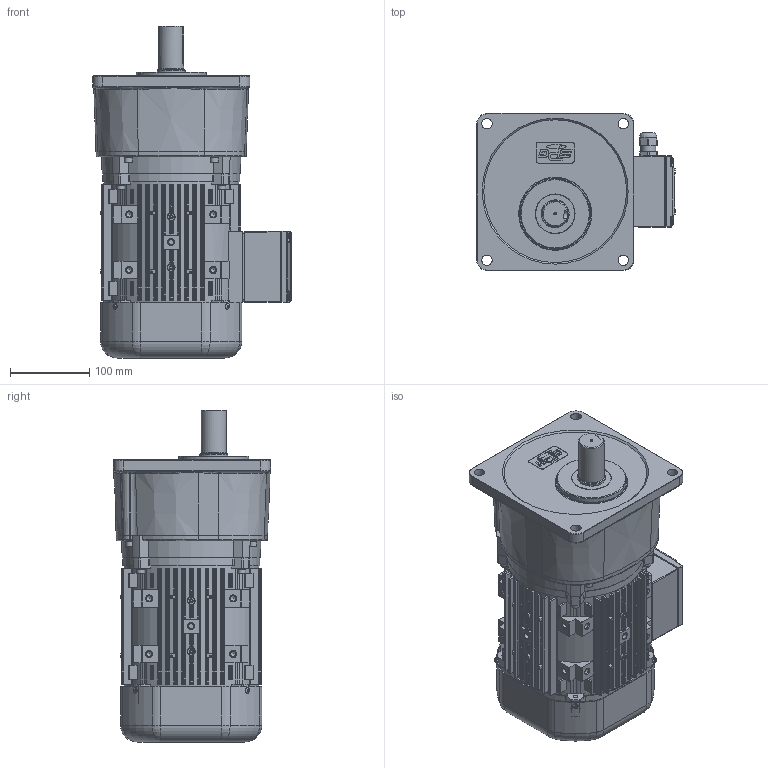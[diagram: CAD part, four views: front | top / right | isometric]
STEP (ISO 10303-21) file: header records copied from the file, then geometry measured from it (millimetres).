
FILE_DESCRIPTION((''),'2;1');
FILE_NAME('D:\Heo\도면\1동력도면\3D도면\PAK 1.5kW\PAK32-30~25-EA(B)150.stp','2013-04-02T14:29:35',('jhheo'),(''),'Autodesk Inventor 2013','Autodesk Inventor 2013','');
FILE_SCHEMA(('AUTOMOTIVE_DESIGN { 1 0 10303 214 1 1 1 1 }'));
Length unit declared in the file: millimetre
Products named in the file (20): PAK32-30~25-EA(B)150; 90L 1.5kW FRAME L_T 20091120; FAN COVER 20090528; 90L 1.5kW FRONT COVER L_T 20090618; 554260252-M6-L25; 552400800-M4XL8; RUBBER GASKET FOR ASM; Lead box EA(B) ASS'Y; LEAD BOX A 20090609; LEAD BOX B 20090609; 0570004400_SKINTOP PG11; 0570004400_BED; 0570004400_CAP; 0570004400_Rubber; PAK32 150; 32F+1.5kW HOUSING 상 가공; 0393087300_32F_PAK-BOX 가공 Sample; JIS B 2402 D D 35 x 50 x 8; 32F-SPINDLE; 0554260256-M6-L25
Assembly tree (36 placements, depth 3):
  PAK32-30~25-EA(B)150
    90L 1.5kW FRAME L_T 20091120
    FAN COVER 20090528
    90L 1.5kW FRONT COVER L_T 20090618
    554260252-M6-L25  x8
    552400800-M4XL8  x4
    RUBBER GASKET FOR ASM
    PAK32 150
      32F+1.5kW HOUSING 상 가공
      0393087300_32F_PAK-BOX 가공 Sample
      JIS B 2402 D D 35 x 50 x 8
      32F-SPINDLE
      0554260256-M6-L25  x4
  Lead box EA(B) ASS'Y
    LEAD BOX A 20090609
    LEAD BOX B 20090609
    RUBBER GASKET FOR ASM
    552400800-M4XL8  x4
    0570004400_SKINTOP PG11
      0570004400_BED
      0570004400_CAP
      0570004400_Rubber
Bounding box: 250.5 x 198 x 418.5 mm (x, y, z)
Volume: 3021278.2 mm3; surface area: 892132.6 mm2
Topology: 34 solids, 34 shells, 2455 faces, 6485 edges, 4219 vertices
Faces by surface type: plane 1158, cylinder 971, cone 186, torus 81, bspline 39, sphere 20
Full cylindrical faces by diameter (mm): 2 x2, 3.2 x10, 3.242 x14, 3.6 x4, 4 x8, 4.917 x12, 5 x16, 6 x13, 6.5 x4, 6.647 x15, 7 x12, 9.5 x12, 10 x12, 10.2 x1, 10.7 x1, 13.1 x1, 13.4 x2, 18.4 x1, 18.6 x1, 18.8 x1, 21 x1, 21.8 x1, 22 x1, 22.2 x1, 24 x1, 31.8 x2, 32 x2, 34.8 x1, 35 x3, 50 x2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
Entity records: 70641 total; most frequent: CARTESIAN_POINT 14314, DIRECTION 11927, ORIENTED_EDGE 10930, EDGE_CURVE 5465, AXIS2_PLACEMENT_3D 4543, VERTEX_POINT 3698, VECTOR 2841, LINE 2841
